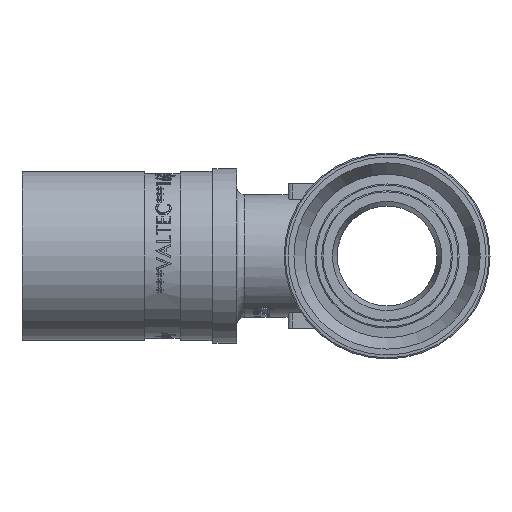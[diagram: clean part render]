
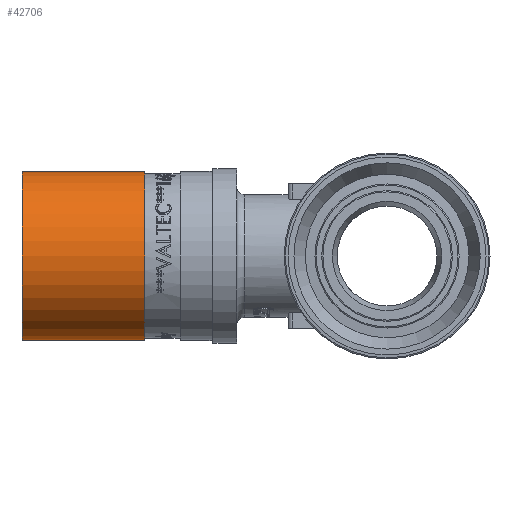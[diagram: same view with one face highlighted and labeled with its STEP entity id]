
A CAD part, left-side view. The second image highlights one B-rep face of the part: STEP entity #42706.
In plain terms, the highlighted cylindrical face has radius 10.7 mm (diameter 21.4 mm), a full revolution.
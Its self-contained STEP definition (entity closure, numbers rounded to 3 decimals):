
#3521=FACE_OUTER_BOUND('',#6101,.T.);
#6101=EDGE_LOOP('',(#34543,#34544,#34545,#34546,#34547,#34548));
#11685=LINE('',#76665,#14698);
#14698=VECTOR('',#49779,10.7);
#16557=CIRCLE('',#45031,10.7);
#16558=CIRCLE('',#45032,10.7);
#16559=CIRCLE('',#45034,10.7);
#16560=CIRCLE('',#45035,10.7);
#19619=VERTEX_POINT('',#76656);
#19620=VERTEX_POINT('',#76657);
#19621=VERTEX_POINT('',#76661);
#19622=VERTEX_POINT('',#76662);
#25027=EDGE_CURVE('',#19619,#19620,#16557,.T.);
#25028=EDGE_CURVE('',#19620,#19619,#16558,.T.);
#25029=EDGE_CURVE('',#19621,#19622,#16559,.T.);
#25030=EDGE_CURVE('',#19622,#19621,#16560,.T.);
#25031=EDGE_CURVE('',#19622,#19620,#11685,.T.);
#34543=ORIENTED_EDGE('',*,*,#25029,.F.);
#34544=ORIENTED_EDGE('',*,*,#25030,.F.);
#34545=ORIENTED_EDGE('',*,*,#25031,.T.);
#34546=ORIENTED_EDGE('',*,*,#25028,.T.);
#34547=ORIENTED_EDGE('',*,*,#25027,.T.);
#34548=ORIENTED_EDGE('',*,*,#25031,.F.);
#41454=CYLINDRICAL_SURFACE('',#45033,10.7);
#42706=ADVANCED_FACE('',(#3521),#41454,.T.);
#45031=AXIS2_PLACEMENT_3D('',#76658,#49769,#49770);
#45032=AXIS2_PLACEMENT_3D('',#76659,#49771,#49772);
#45033=AXIS2_PLACEMENT_3D('',#76660,#49773,#49774);
#45034=AXIS2_PLACEMENT_3D('',#76663,#49775,#49776);
#45035=AXIS2_PLACEMENT_3D('',#76664,#49777,#49778);
#49769=DIRECTION('center_axis',(0.,-1.,0.));
#49770=DIRECTION('ref_axis',(1.,0.,0.));
#49771=DIRECTION('center_axis',(0.,-1.,0.));
#49772=DIRECTION('ref_axis',(1.,0.,0.));
#49773=DIRECTION('center_axis',(0.,-1.,0.));
#49774=DIRECTION('ref_axis',(-1.,0.,0.));
#49775=DIRECTION('center_axis',(0.,-1.,0.));
#49776=DIRECTION('ref_axis',(1.,0.,0.));
#49777=DIRECTION('center_axis',(0.,-1.,0.));
#49778=DIRECTION('ref_axis',(1.,0.,0.));
#49779=DIRECTION('',(0.,1.,0.));
#76656=CARTESIAN_POINT('',(-10.7,46.1,0.));
#76657=CARTESIAN_POINT('',(10.7,46.1,0.));
#76658=CARTESIAN_POINT('Origin',(0.,46.1,
0.));
#76659=CARTESIAN_POINT('Origin',(0.,46.1,
0.));
#76660=CARTESIAN_POINT('Origin',(0.,38.35,
0.));
#76661=CARTESIAN_POINT('',(-10.7,30.6,0.));
#76662=CARTESIAN_POINT('',(10.7,30.6,0.));
#76663=CARTESIAN_POINT('Origin',(0.,30.6,
0.));
#76664=CARTESIAN_POINT('Origin',(0.,30.6,
0.));
#76665=CARTESIAN_POINT('',(10.7,38.35,0.));
